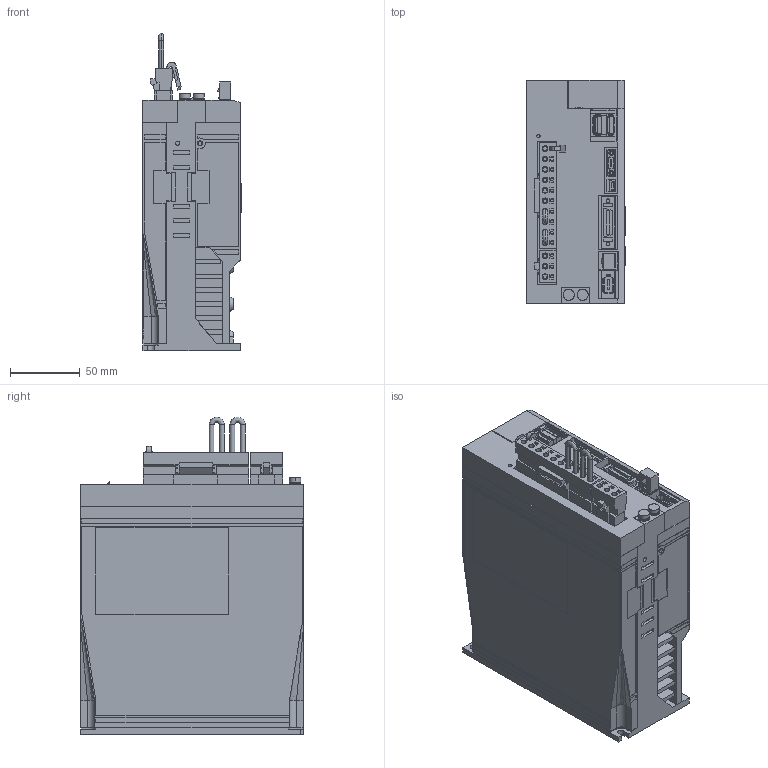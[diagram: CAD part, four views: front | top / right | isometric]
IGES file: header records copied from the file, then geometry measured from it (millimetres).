
Start section: SolidWorks IGES file using analytic representation for surfaces
Global section: file name: C:\YASKAWA\sgdv_3r8a1_a.IGS; native system: SolidWorks 2006 by SolidWorks Corporation; preprocessor: SolidWorks 2006 by SolidWorks Corporation; author: yamanouchi; date: 080617.172930; units: millimetre
Bounding box: 70.5 x 160 x 228 mm (x, y, z)
Surface area: 165832.4 mm2 (no closed solid volume)
Topology: 0 solids, 0 shells, 1944 faces, 15354 edges, 15353 vertices
Faces by surface type: bspline 1729, revolution 215
